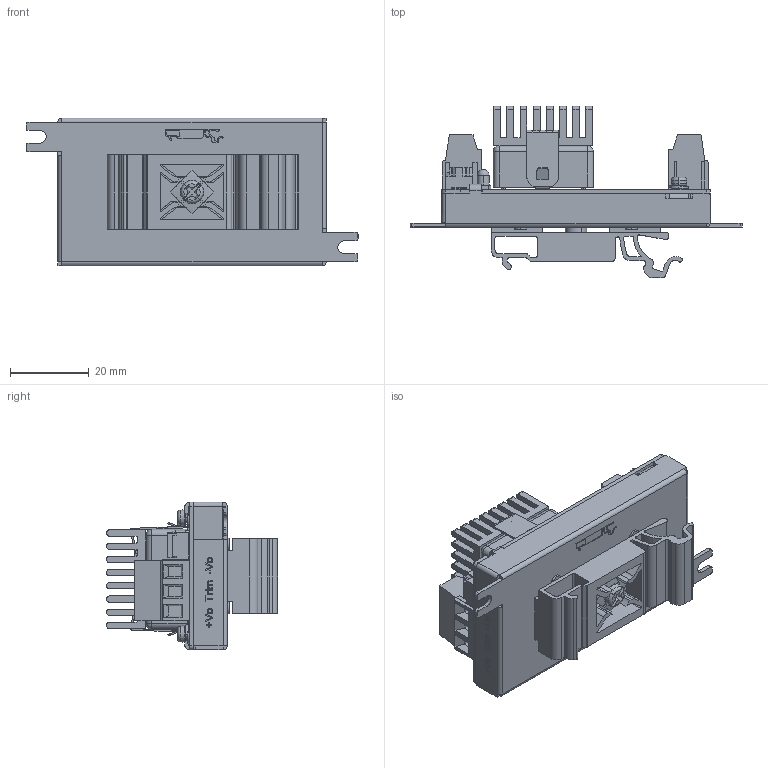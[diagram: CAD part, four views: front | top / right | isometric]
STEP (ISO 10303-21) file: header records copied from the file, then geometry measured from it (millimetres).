
FILE_DESCRIPTION (( 'STEP AP214' ), '1' );
FILE_NAME ('DIN-mitTrim.STEP', '2024-12-05T13:26:45', ( '' ), ( '' ), 'SwSTEP 2.0', 'SolidWorks 2024', '' );
FILE_SCHEMA (( 'AUTOMOTIVE_DESIGN' ));
Length unit declared in the file: millimetre
Products named in the file (1): DIN-mitTrim
Bounding box: 84.2 x 43.4 x 37.5 mm (x, y, z)
Volume: 17736.6 mm3; surface area: 30227 mm2
Topology: 2 solids, 3 shells, 1847 faces, 5089 edges, 3333 vertices
Faces by surface type: plane 1153, cylinder 537, bspline 80, cone 41, torus 26, sphere 10
Entity records: 94236 total; most frequent: CARTESIAN_POINT 27170, ORIENTED_EDGE 10158, DIRECTION 9175, EDGE_CURVE 5079, LINE 3423, VECTOR 3423, VERTEX_POINT 3333, AXIS2_PLACEMENT_3D 2876
